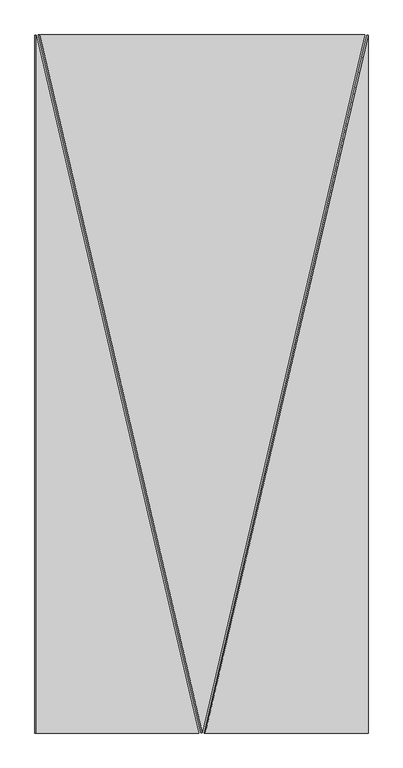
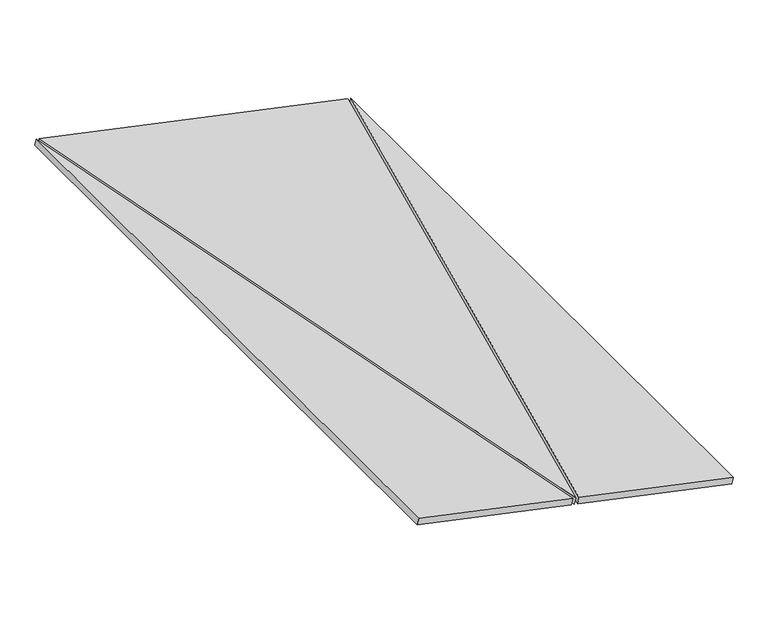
"""IFC4 building model written with IfcOpenShell, lengths in millimetres: proxy geometry, panel sufitowy 6 : panel sufitowy 6."""

from ifc_helpers import new_model, si_unit, frame, origin, place, context, project, spatial, polyline, outline, extrude, source, transform, mapped, element, save


def generic_models_217b12a0(model_context):
    return source(origin(), model_context, "Body", "SweptSolid", [
        extrude(outline(polyline([(-900.9098917, 0.0), (1235.4098448, 0.0), (1006.1909889, -962.7191946), (-900.9098917, 0.0)])), frame((535.3980727, -1457.4151922, 1070.4136115), z_axis=(0.20791169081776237, 0.0, 0.9781476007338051), x_axis=(-0.2265590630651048, 0.9728062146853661, 0.0481566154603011)), (0.0, 0.0, 1.0), 20.0),
        extrude(outline(polyline([(-127.5, 0.0), (-622.5, 0.0), (-127.5, 2079.0), (-127.5, 0.0)])), frame((1357.9123002, -2335.0, 895.5828154), z_axis=(0.20791169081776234, 0.0, 0.9781476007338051), x_axis=(0.9781476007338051, 0.0, -0.20791169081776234)), (0.0, 0.0, 1.0), 20.0),
        extrude(outline(polyline([(-127.5, 0.0), (-127.5, -2079.0), (-622.4999999, 0.0), (-127.5, 0.0)])), frame((120.5555853, -2335.0, 1158.5911043), z_axis=(0.20791169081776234, 0.0, 0.9781476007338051), x_axis=(-0.9781476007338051, 0.0, 0.20791169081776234)), (0.0, 0.0, 1.0), 20.0),
    ])


if __name__ == "__main__":
    model = new_model("IFC4")
    model_context = context("Model", 3, world=origin())
    ifc_project = project(units=[si_unit("LENGTHUNIT", "METRE", prefix="MILLI")], contexts=[model_context])
    site = spatial("IfcSite", under=ifc_project)
    building = spatial("IfcBuilding", under=site)
    placement = place(None, origin())
    generic_models_shape = generic_models_217b12a0(model_context)
    element("IfcBuildingElementProxy", 1, Name="panel sufitowy 6 : panel sufitowy 6", ObjectType="panel sufitowy 6 : panel sufitowy 6", at=placement, inside=building, context=model_context, shape_type="MappedRepresentation", body=[
        mapped(generic_models_shape, transform((0.0, 0.0, 0.0), x_axis=(1.0, 0.0, 0.0), y_axis=(0.0, 1.0, 0.0), z_axis=(0.0, 0.0, 1.0))),
    ])
    save(model, "model.ifc")
